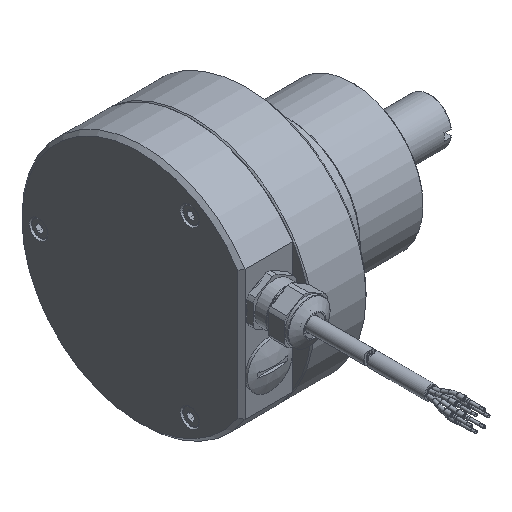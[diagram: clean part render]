
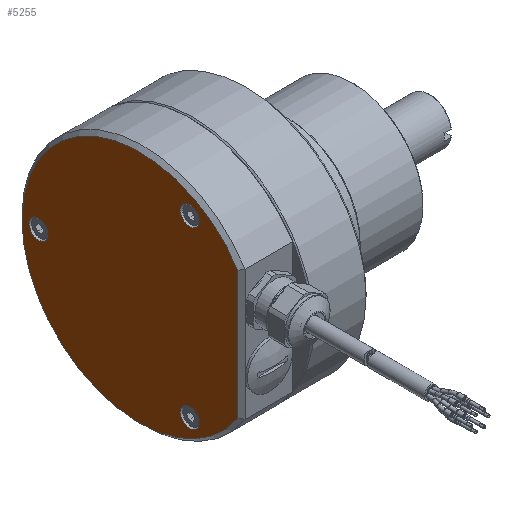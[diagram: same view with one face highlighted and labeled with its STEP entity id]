
A CAD part, isometric view. The second image highlights one B-rep face of the part: STEP entity #5255.
In plain terms, the highlighted planar face has unit normal (-1, 0, 0).
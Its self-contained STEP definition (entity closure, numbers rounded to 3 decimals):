
#345=FACE_BOUND('',#1282,.T.);
#346=FACE_BOUND('',#1283,.T.);
#347=FACE_BOUND('',#1284,.T.);
#435=PLANE('',#5820);
#915=FACE_OUTER_BOUND('',#1281,.T.);
#1281=EDGE_LOOP('',(#4223,#4224));
#1282=EDGE_LOOP('',(#4225));
#1283=EDGE_LOOP('',(#4226));
#1284=EDGE_LOOP('',(#4227));
#1599=LINE('',#11014,#1885);
#1885=VECTOR('',#6967,53.963);
#2250=CIRCLE('',#5817,4.);
#2252=CIRCLE('',#5821,49.5);
#2253=CIRCLE('',#5822,4.);
#2254=CIRCLE('',#5823,4.);
#2593=VERTEX_POINT('',#11004);
#2595=VERTEX_POINT('',#11012);
#2596=VERTEX_POINT('',#11013);
#2597=VERTEX_POINT('',#11016);
#2598=VERTEX_POINT('',#11018);
#3176=EDGE_CURVE('',#2593,#2593,#2250,.T.);
#3179=EDGE_CURVE('',#2595,#2596,#1599,.T.);
#3180=EDGE_CURVE('',#2596,#2595,#2252,.T.);
#3181=EDGE_CURVE('',#2597,#2597,#2253,.T.);
#3182=EDGE_CURVE('',#2598,#2598,#2254,.T.);
#4223=ORIENTED_EDGE('',*,*,#3179,.F.);
#4224=ORIENTED_EDGE('',*,*,#3180,.F.);
#4225=ORIENTED_EDGE('',*,*,#3176,.F.);
#4226=ORIENTED_EDGE('',*,*,#3181,.F.);
#4227=ORIENTED_EDGE('',*,*,#3182,.F.);
#5255=ADVANCED_FACE('',(#915,#345,#346,#347),#435,.T.);
#5817=AXIS2_PLACEMENT_3D('',#11006,#6958,#6959);
#5820=AXIS2_PLACEMENT_3D('',#11011,#6965,#6966);
#5821=AXIS2_PLACEMENT_3D('',#11015,#6968,#6969);
#5822=AXIS2_PLACEMENT_3D('',#11017,#6970,#6971);
#5823=AXIS2_PLACEMENT_3D('',#11019,#6972,#6973);
#6958=DIRECTION('center_axis',(-1.,0.,0.));
#6959=DIRECTION('ref_axis',(0.,0.,
-1.));
#6965=DIRECTION('center_axis',(-1.,0.,0.));
#6966=DIRECTION('ref_axis',(0.,0.,
-1.));
#6967=DIRECTION('',(0.,0.,-1.));
#6968=DIRECTION('center_axis',(1.,0.,0.));
#6969=DIRECTION('ref_axis',(0.,0.,-1.));
#6970=DIRECTION('center_axis',(-1.,0.,0.));
#6971=DIRECTION('ref_axis',(0.,0.,
-1.));
#6972=DIRECTION('center_axis',(-1.,0.,0.));
#6973=DIRECTION('ref_axis',(0.,0.,
-1.));
#11004=CARTESIAN_POINT('',(-46.,42.5,4.));
#11006=CARTESIAN_POINT('Origin',(-46.,42.5,0.));
#11011=CARTESIAN_POINT('Origin',(-46.,49.5,0.));
#11012=CARTESIAN_POINT('',(-46.,-41.5,26.981));
#11013=CARTESIAN_POINT('',(-46.,-41.5,-26.981));
#11014=CARTESIAN_POINT('',(-46.,-41.5,-26.981));
#11015=CARTESIAN_POINT('Origin',(-46.,0.,0.));
#11016=CARTESIAN_POINT('',(-46.,-21.25,40.806));
#11017=CARTESIAN_POINT('Origin',(-46.,-21.25,36.806));
#11018=CARTESIAN_POINT('',(-46.,-21.25,-32.806));
#11019=CARTESIAN_POINT('Origin',(-46.,-21.25,-36.806));
